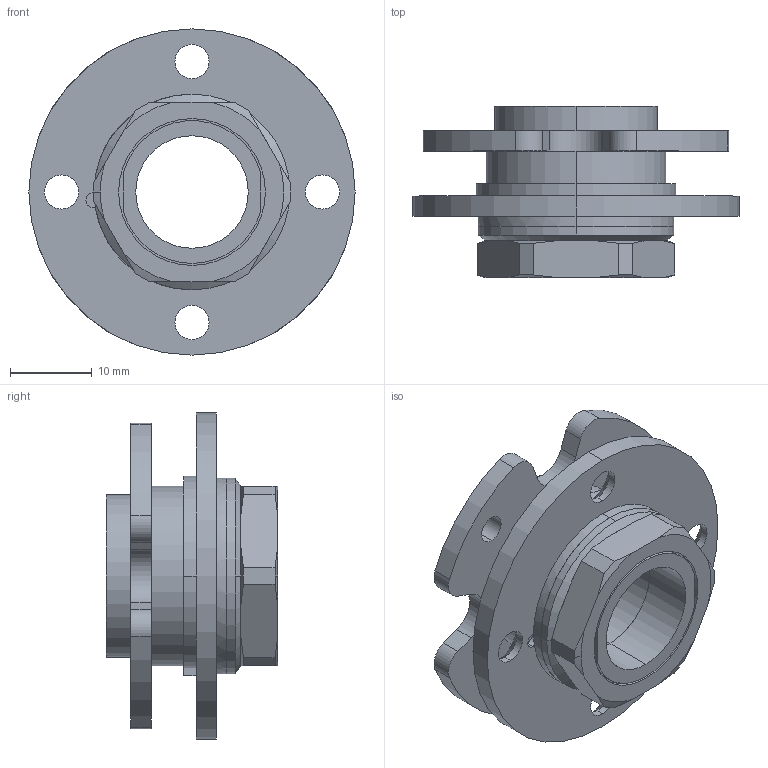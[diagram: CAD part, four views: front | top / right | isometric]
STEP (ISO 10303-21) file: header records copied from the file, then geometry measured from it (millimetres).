
FILE_DESCRIPTION (( 'STEP AP203' ), '1' );
FILE_NAME ('XG11-120-2.STEP', '2025-06-17T09:17:39', ( '微软用户' ), ( '微软中国' ), 'SwSTEP 2.0', 'SolidWorks 2024', '' );
FILE_SCHEMA (( 'CONFIG_CONTROL_DESIGN' ));
Length unit declared in the file: millimetre
Products named in the file (1): XG11-120-2
Bounding box: 40 x 21 x 40 mm (x, y, z)
Volume: 8606.8 mm3; surface area: 6974.9 mm2
Topology: 2 solids, 2 shells, 126 faces, 329 edges, 214 vertices
Faces by surface type: cylinder 59, plane 43, cone 24
Entity records: 4072 total; most frequent: CARTESIAN_POINT 784, DIRECTION 699, ORIENTED_EDGE 658, EDGE_CURVE 329, AXIS2_PLACEMENT_3D 281, VERTEX_POINT 214, CIRCLE 154, EDGE_LOOP 153
